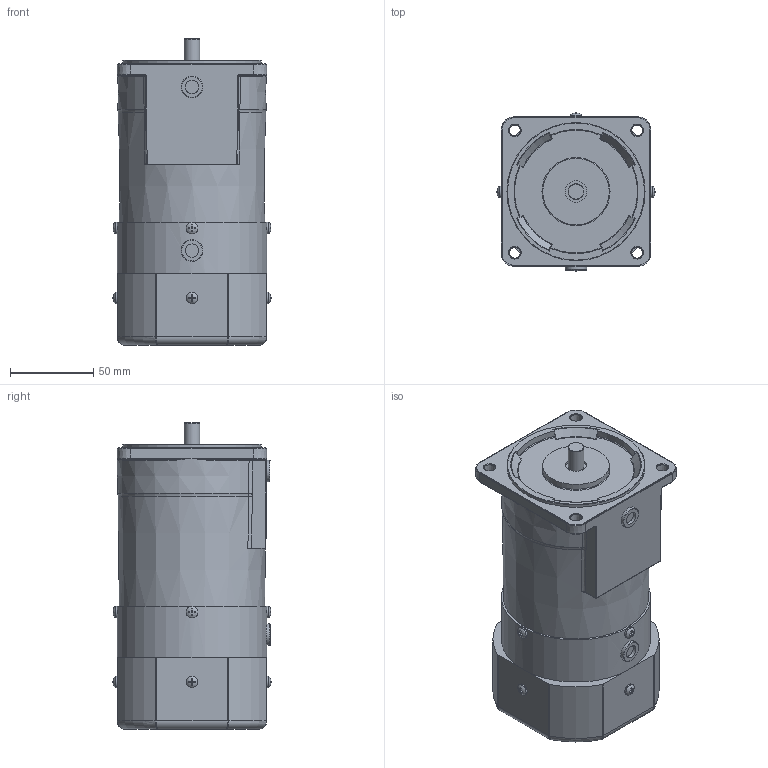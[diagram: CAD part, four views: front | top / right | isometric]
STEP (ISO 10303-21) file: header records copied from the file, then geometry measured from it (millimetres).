
FILE_DESCRIPTION (( 'STEP AP214' ), '1' );
FILE_NAME ('9BDG¤±-60FW.STEP', '2025-01-13T07:47:20', ( '' ), ( '' ), 'SwSTEP 2.0', 'SolidWorks 2024', '' );
FILE_SCHEMA (( 'AUTOMOTIVE_DESIGN' ));
Length unit declared in the file: millimetre
Products named in the file (1): 9BDGㅁ-60FW
Bounding box: 95.09 x 95.09 x 184.5 mm (x, y, z)
Volume: 1115582.7 mm3; surface area: 71253.7 mm2
Topology: 1 solids, 1 shells, 453 faces, 1149 edges, 720 vertices
Faces by surface type: plane 202, cylinder 145, torus 36, bspline 32, cone 32, sphere 6
Full cylindrical faces by diameter (mm): 6.1 x1, 6.5 x4, 7 x8, 8 x2, 9.6 x1, 13 x3, 40 x1, 83.1 x1, 90 x1
Entity records: 14898 total; most frequent: CARTESIAN_POINT 4459, DIRECTION 2153, ORIENTED_EDGE 2132, EDGE_CURVE 1066, AXIS2_PLACEMENT_3D 829, VERTEX_POINT 703, EDGE_LOOP 549, LINE 495
